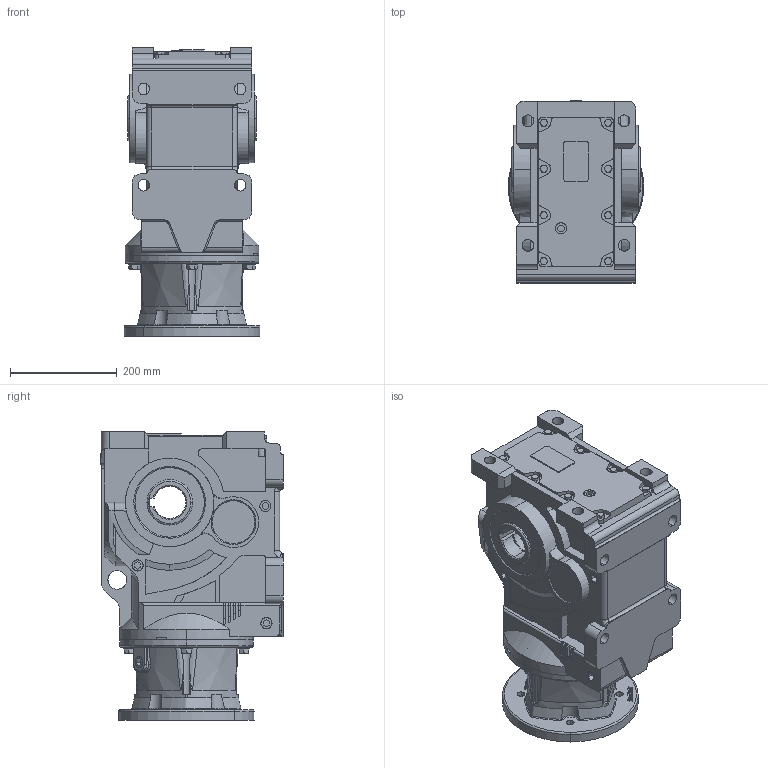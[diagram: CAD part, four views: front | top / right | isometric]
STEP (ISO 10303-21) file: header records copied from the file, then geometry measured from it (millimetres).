
FILE_DESCRIPTION (( 'STEP AP203' ), '1' );
FILE_NAME ('KHN87-254-6TC.STEP', '2022-04-08T02:42:24', ( 'user1' ), ( '' ), 'SwSTEP 2.0', 'SolidWorks 2012', '' );
FILE_SCHEMA (( 'CONFIG_CONTROL_DESIGN' ));
Length unit declared in the file: millimetre
Products named in the file (3): KHN87; 87型-254T; KHN87-254-6TC
Assembly tree (2 placements, depth 2):
  KHN87-254-6TC
    KHN87
    87型-254T
Bounding box: 253.03 x 340.5 x 539.5 mm (x, y, z)
Volume: 25357156.7 mm3; surface area: 1033554.8 mm2
Topology: 2 solids, 24 shells, 1316 faces, 3421 edges, 2212 vertices
Faces by surface type: plane 621, cylinder 336, cone 178, bspline 148, torus 33
Entity records: 54113 total; most frequent: CARTESIAN_POINT 22440, ORIENTED_EDGE 6778, DIRECTION 6093, EDGE_CURVE 3389, VERTEX_POINT 2212, AXIS2_PLACEMENT_3D 2127, VECTOR 1839, LINE 1839
